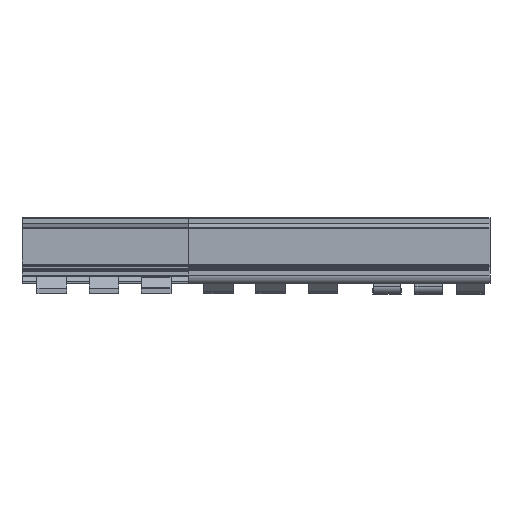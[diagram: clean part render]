
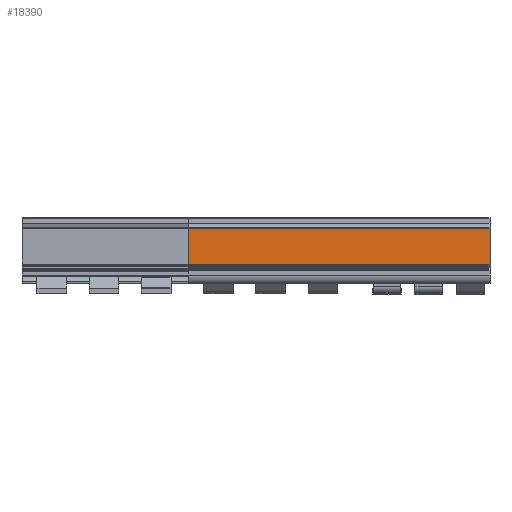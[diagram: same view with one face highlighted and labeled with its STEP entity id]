
A CAD part, left-side view. The second image highlights one B-rep face of the part: STEP entity #18390.
In plain terms, the highlighted planar face has unit normal (-1, 0, 0) as drawn and (0, -1, 0) by its records, which use the part's own axes.
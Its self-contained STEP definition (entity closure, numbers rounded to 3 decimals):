
#14245=DIRECTION('',(0.,0.,-1.));
#14246=VECTOR('',#14245,30.754);
#14247=CARTESIAN_POINT('',(126.5,-24.3,39.414));
#14248=LINE('',#14247,#14246);
#15727=DIRECTION('',(1.,0.,0.));
#15728=VECTOR('',#15727,253.);
#15729=CARTESIAN_POINT('',(-126.5,-24.3,39.414));
#15730=LINE('',#15729,#15728);
#15735=DIRECTION('',(0.,0.,-1.));
#15736=VECTOR('',#15735,30.754);
#15737=CARTESIAN_POINT('',(-126.5,-24.3,39.414));
#15738=LINE('',#15737,#15736);
#15743=DIRECTION('',(-1.,0.,0.));
#15744=VECTOR('',#15743,253.);
#15745=CARTESIAN_POINT('',(126.5,-24.3,8.66));
#15746=LINE('',#15745,#15744);
#16423=CARTESIAN_POINT('',(-126.5,-24.3,39.414));
#16424=CARTESIAN_POINT('',(-126.5,-24.3,8.66));
#16425=VERTEX_POINT('',#16423);
#16426=VERTEX_POINT('',#16424);
#16427=CARTESIAN_POINT('',(126.5,-24.3,8.66));
#16428=VERTEX_POINT('',#16427);
#16429=CARTESIAN_POINT('',(126.5,-24.3,39.414));
#16430=VERTEX_POINT('',#16429);
#18378=CARTESIAN_POINT('',(126.5,-24.3,8.572));
#18379=DIRECTION('',(0.,-1.,0.));
#18380=DIRECTION('',(0.,0.,-1.));
#18381=AXIS2_PLACEMENT_3D('',#18378,#18379,#18380);
#18382=PLANE('',#18381);
#18383=ORIENTED_EDGE('',*,*,#17001,.F.);
#18384=ORIENTED_EDGE('',*,*,#18371,.T.);
#18385=ORIENTED_EDGE('',*,*,#16560,.T.);
#18387=ORIENTED_EDGE('',*,*,#18386,.T.);
#18388=EDGE_LOOP('',(#18383,#18384,#18385,#18387));
#18389=FACE_OUTER_BOUND('',#18388,.F.);
#16560=EDGE_CURVE('',#16430,#16428,#14248,.T.);
#17001=EDGE_CURVE('',#16425,#16426,#15738,.T.);
#18371=EDGE_CURVE('',#16425,#16430,#15730,.T.);
#18386=EDGE_CURVE('',#16428,#16426,#15746,.T.);
#18390=ADVANCED_FACE('',(#18389),#18382,.T.);
